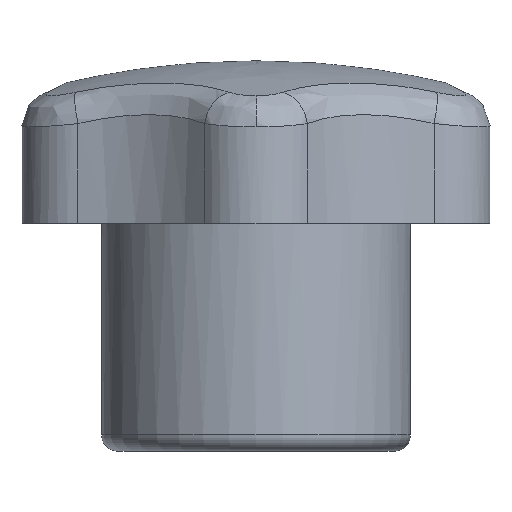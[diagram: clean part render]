
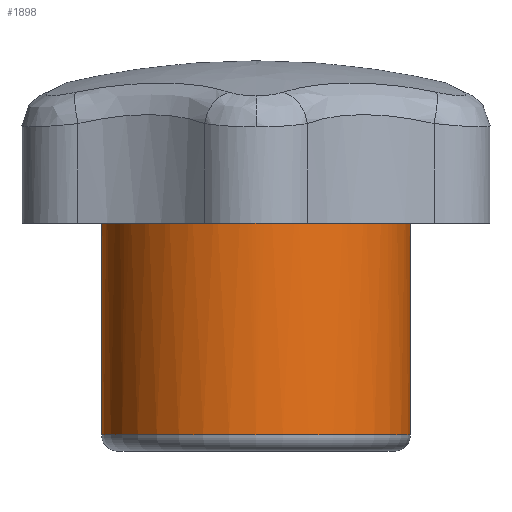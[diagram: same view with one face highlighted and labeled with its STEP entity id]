
A CAD part, left-side view. The second image highlights one B-rep face of the part: STEP entity #1898.
In plain terms, the highlighted cylindrical face has radius 9.5 mm (diameter 19 mm), a full revolution.
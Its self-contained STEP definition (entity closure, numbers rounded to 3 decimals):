
#42=CARTESIAN_POINT('',(-9.5,0.,1.));
#43=VERTEX_POINT('',#42);
#53=CARTESIAN_POINT('',(0.,0.,1.));
#54=DIRECTION('',(-1.,0.,0.));
#55=DIRECTION('',(0.,0.,1.));
#56=AXIS2_PLACEMENT_3D('',#53,#55,#54);
#57=CIRCLE('',#56,9.5);
#58=EDGE_CURVE('',#43,#43,#57,.T.);
#1670=CARTESIAN_POINT('',(0.,0.,17.));
#1671=DIRECTION('',(-1.,0.,0.));
#1672=DIRECTION('',(0.,0.,-1.));
#1673=AXIS2_PLACEMENT_3D('',#1670,#1672,#1671);
#1674=CYLINDRICAL_SURFACE('',#1673,9.5);
#1675=ORIENTED_EDGE('',*,*,#58,.T.);
#1676=CARTESIAN_POINT('',(-9.5,0.,16.));
#1677=VERTEX_POINT('',#1676);
#1678=CARTESIAN_POINT('',(-9.5,0.,1.));
#1679=DIRECTION('',(0.,0.,1.));
#1680=VECTOR('',#1679,15.);
#1681=LINE('',#1678,#1680);
#1682=EDGE_CURVE('',#43,#1677,#1681,.T.);
#1683=ORIENTED_EDGE('E55',*,*,#1682,.T.);
#1684=CARTESIAN_POINT('',(-9.457,0.9,16.));
#1685=VERTEX_POINT('',#1684);
#1686=CARTESIAN_POINT('',(0.,0.,16.));
#1687=DIRECTION('',(-0.996,0.095,0.));
#1688=DIRECTION('',(0.,0.,1.));
#1689=AXIS2_PLACEMENT_3D('',#1686,#1688,#1687);
#1690=CIRCLE('',#1689,9.5);
#1691=EDGE_CURVE('',#1685,#1677,#1690,.T.);
#1692=ORIENTED_EDGE('E233',*,*,#1691,.F.);
#1693=CARTESIAN_POINT('',(-9.457,0.9,17.));
#1694=VERTEX_POINT('',#1693);
#1695=CARTESIAN_POINT('',(-9.457,0.9,17.));
#1696=DIRECTION('',(0.,0.,-1.));
#1697=VECTOR('',#1696,1.);
#1698=LINE('',#1695,#1697);
#1699=EDGE_CURVE('',#1694,#1685,#1698,.T.);
#1700=ORIENTED_EDGE('E234',*,*,#1699,.F.);
#1701=CARTESIAN_POINT('',(-5.508,7.74,17.));
#1702=VERTEX_POINT('',#1701);
#1703=CARTESIAN_POINT('',(0.,0.,17.));
#1704=DIRECTION('',(-0.58,0.815,0.));
#1705=DIRECTION('',(0.,0.,1.));
#1706=AXIS2_PLACEMENT_3D('',#1703,#1705,#1704);
#1707=CIRCLE('',#1706,9.5);
#1708=EDGE_CURVE('',#1702,#1694,#1707,.T.);
#1709=ORIENTED_EDGE('E132',*,*,#1708,.F.);
#1710=CARTESIAN_POINT('',(-5.508,7.74,16.));
#1711=VERTEX_POINT('',#1710);
#1712=CARTESIAN_POINT('',(-5.508,7.74,16.));
#1713=DIRECTION('',(0.,0.,1.));
#1714=VECTOR('',#1713,1.);
#1715=LINE('',#1712,#1714);
#1716=EDGE_CURVE('',#1711,#1702,#1715,.T.);
#1717=ORIENTED_EDGE('E216',*,*,#1716,.F.);
#1718=CARTESIAN_POINT('',(-3.949,8.64,16.));
#1719=VERTEX_POINT('',#1718);
#1720=CARTESIAN_POINT('',(0.,0.,16.));
#1721=DIRECTION('',(-0.416,0.909,0.));
#1722=DIRECTION('',(0.,0.,1.));
#1723=AXIS2_PLACEMENT_3D('',#1720,#1722,#1721);
#1724=CIRCLE('',#1723,9.5);
#1725=EDGE_CURVE('',#1719,#1711,#1724,.T.);
#1726=ORIENTED_EDGE('E215',*,*,#1725,.F.);
#1727=CARTESIAN_POINT('',(-3.949,8.64,17.));
#1728=VERTEX_POINT('',#1727);
#1729=CARTESIAN_POINT('',(-3.949,8.64,17.));
#1730=DIRECTION('',(0.,0.,-1.));
#1731=VECTOR('',#1730,1.);
#1732=LINE('',#1729,#1731);
#1733=EDGE_CURVE('',#1728,#1719,#1732,.T.);
#1734=ORIENTED_EDGE('E214',*,*,#1733,.F.);
#1735=CARTESIAN_POINT('',(3.949,8.64,17.));
#1736=VERTEX_POINT('',#1735);
#1737=CARTESIAN_POINT('',(0.,0.,17.));
#1738=DIRECTION('',(0.416,0.909,0.));
#1739=DIRECTION('',(0.,0.,1.));
#1740=AXIS2_PLACEMENT_3D('',#1737,#1739,#1738);
#1741=CIRCLE('',#1740,9.5);
#1742=EDGE_CURVE('',#1736,#1728,#1741,.T.);
#1743=ORIENTED_EDGE('E166',*,*,#1742,.F.);
#1744=CARTESIAN_POINT('',(3.949,8.64,16.));
#1745=VERTEX_POINT('',#1744);
#1746=CARTESIAN_POINT('',(3.949,8.64,16.));
#1747=DIRECTION('',(0.,0.,1.));
#1748=VECTOR('',#1747,1.);
#1749=LINE('',#1746,#1748);
#1750=EDGE_CURVE('',#1745,#1736,#1749,.T.);
#1751=ORIENTED_EDGE('E186',*,*,#1750,.F.);
#1752=CARTESIAN_POINT('',(5.508,7.74,16.));
#1753=VERTEX_POINT('',#1752);
#1754=CARTESIAN_POINT('',(0.,0.,16.));
#1755=DIRECTION('',(0.58,0.815,0.));
#1756=DIRECTION('',(0.,0.,1.));
#1757=AXIS2_PLACEMENT_3D('',#1754,#1756,#1755);
#1758=CIRCLE('',#1757,9.5);
#1759=EDGE_CURVE('',#1753,#1745,#1758,.T.);
#1760=ORIENTED_EDGE('E180',*,*,#1759,.F.);
#1761=CARTESIAN_POINT('',(5.508,7.74,17.));
#1762=VERTEX_POINT('',#1761);
#1763=CARTESIAN_POINT('',(5.508,7.74,17.));
#1764=DIRECTION('',(0.,0.,-1.));
#1765=VECTOR('',#1764,1.);
#1766=LINE('',#1763,#1765);
#1767=EDGE_CURVE('',#1762,#1753,#1766,.T.);
#1768=ORIENTED_EDGE('E181',*,*,#1767,.F.);
#1769=CARTESIAN_POINT('',(9.457,0.9,17.));
#1770=VERTEX_POINT('',#1769);
#1771=CARTESIAN_POINT('',(0.,0.,17.));
#1772=DIRECTION('',(0.996,0.095,0.));
#1773=DIRECTION('',(0.,0.,1.));
#1774=AXIS2_PLACEMENT_3D('',#1771,#1773,#1772);
#1775=CIRCLE('',#1774,9.5);
#1776=EDGE_CURVE('',#1770,#1762,#1775,.T.);
#1777=ORIENTED_EDGE('E169',*,*,#1776,.F.);
#1778=CARTESIAN_POINT('',(9.457,0.9,16.));
#1779=VERTEX_POINT('',#1778);
#1780=CARTESIAN_POINT('',(9.457,0.9,16.));
#1781=DIRECTION('',(0.,0.,1.));
#1782=VECTOR('',#1781,1.);
#1783=LINE('',#1780,#1782);
#1784=EDGE_CURVE('',#1779,#1770,#1783,.T.);
#1785=ORIENTED_EDGE('E224',*,*,#1784,.F.);
#1786=CARTESIAN_POINT('',(9.457,-0.9,16.));
#1787=VERTEX_POINT('',#1786);
#1788=CARTESIAN_POINT('',(0.,0.,16.));
#1789=DIRECTION('',(0.996,-0.095,0.));
#1790=DIRECTION('',(0.,0.,1.));
#1791=AXIS2_PLACEMENT_3D('',#1788,#1790,#1789);
#1792=CIRCLE('',#1791,9.5);
#1793=EDGE_CURVE('',#1787,#1779,#1792,.T.);
#1794=ORIENTED_EDGE('E220',*,*,#1793,.F.);
#1795=CARTESIAN_POINT('',(9.457,-0.9,17.));
#1796=VERTEX_POINT('',#1795);
#1797=CARTESIAN_POINT('',(9.457,-0.9,17.));
#1798=DIRECTION('',(0.,0.,-1.));
#1799=VECTOR('',#1798,1.);
#1800=LINE('',#1797,#1799);
#1801=EDGE_CURVE('',#1796,#1787,#1800,.T.);
#1802=ORIENTED_EDGE('E223',*,*,#1801,.F.);
#1803=CARTESIAN_POINT('',(5.508,-7.74,17.));
#1804=VERTEX_POINT('',#1803);
#1805=CARTESIAN_POINT('',(0.,0.,17.));
#1806=DIRECTION('',(0.58,-0.815,0.));
#1807=DIRECTION('',(0.,-0.,1.));
#1808=AXIS2_PLACEMENT_3D('',#1805,#1807,#1806);
#1809=CIRCLE('',#1808,9.5);
#1810=EDGE_CURVE('',#1804,#1796,#1809,.T.);
#1811=ORIENTED_EDGE('E167',*,*,#1810,.F.);
#1812=CARTESIAN_POINT('',(5.508,-7.74,16.));
#1813=VERTEX_POINT('',#1812);
#1814=CARTESIAN_POINT('',(5.508,-7.74,16.));
#1815=DIRECTION('',(0.,0.,1.));
#1816=VECTOR('',#1815,1.);
#1817=LINE('',#1814,#1816);
#1818=EDGE_CURVE('',#1813,#1804,#1817,.T.);
#1819=ORIENTED_EDGE('E192',*,*,#1818,.F.);
#1820=CARTESIAN_POINT('',(3.949,-8.64,16.));
#1821=VERTEX_POINT('',#1820);
#1822=CARTESIAN_POINT('',(0.,0.,16.));
#1823=DIRECTION('',(0.416,-0.909,0.));
#1824=DIRECTION('',(0.,0.,1.));
#1825=AXIS2_PLACEMENT_3D('',#1822,#1824,#1823);
#1826=CIRCLE('',#1825,9.5);
#1827=EDGE_CURVE('',#1821,#1813,#1826,.T.);
#1828=ORIENTED_EDGE('E196',*,*,#1827,.F.);
#1829=CARTESIAN_POINT('',(3.949,-8.64,17.));
#1830=VERTEX_POINT('',#1829);
#1831=CARTESIAN_POINT('',(3.949,-8.64,17.));
#1832=DIRECTION('',(0.,0.,-1.));
#1833=VECTOR('',#1832,1.);
#1834=LINE('',#1831,#1833);
#1835=EDGE_CURVE('',#1830,#1821,#1834,.T.);
#1836=ORIENTED_EDGE('E195',*,*,#1835,.F.);
#1837=CARTESIAN_POINT('',(-3.949,-8.64,17.));
#1838=VERTEX_POINT('',#1837);
#1839=CARTESIAN_POINT('',(0.,0.,17.));
#1840=DIRECTION('',(-0.416,-0.909,0.));
#1841=DIRECTION('',(-0.,0.,1.));
#1842=AXIS2_PLACEMENT_3D('',#1839,#1841,#1840);
#1843=CIRCLE('',#1842,9.5);
#1844=EDGE_CURVE('',#1838,#1830,#1843,.T.);
#1845=ORIENTED_EDGE('E168',*,*,#1844,.F.);
#1846=CARTESIAN_POINT('',(-3.949,-8.64,16.));
#1847=VERTEX_POINT('',#1846);
#1848=CARTESIAN_POINT('',(-3.949,-8.64,16.));
#1849=DIRECTION('',(0.,0.,1.));
#1850=VECTOR('',#1849,1.);
#1851=LINE('',#1848,#1850);
#1852=EDGE_CURVE('',#1847,#1838,#1851,.T.);
#1853=ORIENTED_EDGE('E200',*,*,#1852,.F.);
#1854=CARTESIAN_POINT('',(-5.508,-7.74,16.));
#1855=VERTEX_POINT('',#1854);
#1856=CARTESIAN_POINT('',(0.,0.,16.));
#1857=DIRECTION('',(-0.58,-0.815,0.));
#1858=DIRECTION('',(0.,0.,1.));
#1859=AXIS2_PLACEMENT_3D('',#1856,#1858,#1857);
#1860=CIRCLE('',#1859,9.5);
#1861=EDGE_CURVE('',#1855,#1847,#1860,.T.);
#1862=ORIENTED_EDGE('E203',*,*,#1861,.F.);
#1863=CARTESIAN_POINT('',(-5.508,-7.74,17.));
#1864=VERTEX_POINT('',#1863);
#1865=CARTESIAN_POINT('',(-5.508,-7.74,17.));
#1866=DIRECTION('',(0.,0.,-1.));
#1867=VECTOR('',#1866,1.);
#1868=LINE('',#1865,#1867);
#1869=EDGE_CURVE('',#1864,#1855,#1868,.T.);
#1870=ORIENTED_EDGE('E206',*,*,#1869,.F.);
#1871=CARTESIAN_POINT('',(-9.457,-0.9,17.));
#1872=VERTEX_POINT('',#1871);
#1873=CARTESIAN_POINT('',(0.,0.,17.));
#1874=DIRECTION('',(-0.996,-0.095,0.));
#1875=DIRECTION('',(-0.,0.,1.));
#1876=AXIS2_PLACEMENT_3D('',#1873,#1875,#1874);
#1877=CIRCLE('',#1876,9.5);
#1878=EDGE_CURVE('',#1872,#1864,#1877,.T.);
#1879=ORIENTED_EDGE('E170',*,*,#1878,.F.);
#1880=CARTESIAN_POINT('',(-9.457,-0.9,16.));
#1881=VERTEX_POINT('',#1880);
#1882=CARTESIAN_POINT('',(-9.457,-0.9,16.));
#1883=DIRECTION('',(0.,0.,1.));
#1884=VECTOR('',#1883,1.);
#1885=LINE('',#1882,#1884);
#1886=EDGE_CURVE('',#1881,#1872,#1885,.T.);
#1887=ORIENTED_EDGE('E231',*,*,#1886,.F.);
#1888=CARTESIAN_POINT('',(0.,0.,16.));
#1889=DIRECTION('',(-1.,0.,0.));
#1890=DIRECTION('',(0.,0.,1.));
#1891=AXIS2_PLACEMENT_3D('',#1888,#1890,#1889);
#1892=CIRCLE('',#1891,9.5);
#1893=EDGE_CURVE('',#1677,#1881,#1892,.T.);
#1894=ORIENTED_EDGE('E232',*,*,#1893,.F.);
#1895=ORIENTED_EDGE('E232',*,*,#1682,.F.);
#1896=EDGE_LOOP('',(#1675,#1683,#1692,#1700,#1709,#1717,#1726,#1734,#1743,#1751,#1760,#1768,#1777,#1785,#1794,#1802,#1811,#1819,#1828,#1836,#1845,#1853,#1862,#1870,#1879,#1887,#1894,#1895));
#1897=FACE_OUTER_BOUND('',#1896,.T.);
#1898=ADVANCED_FACE('F50',(#1897),#1674,.T.);
